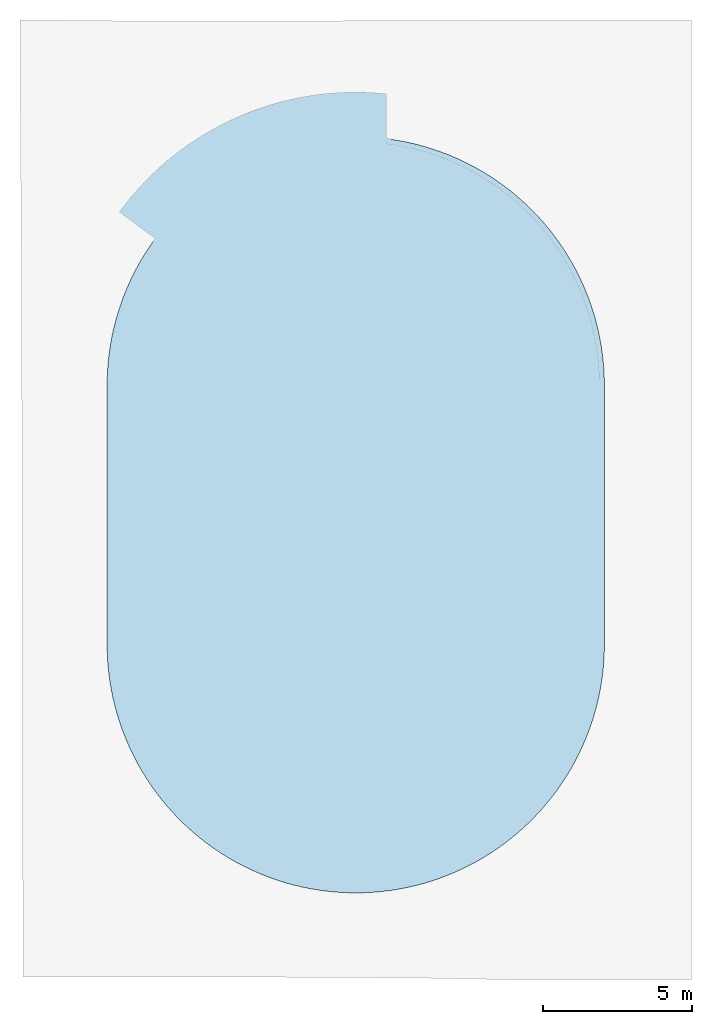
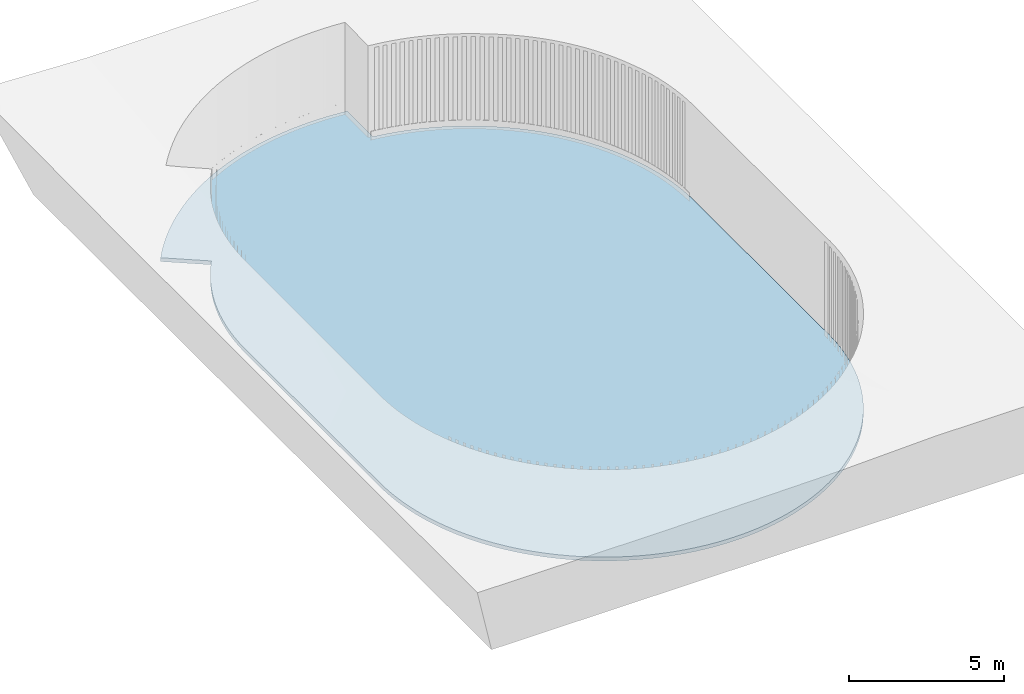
# One storey, incomplete: 1 slab.
"""IFC4 building model written with IfcOpenShell, lengths in millimetres."""

import ifcopenshell
import ifcopenshell.guid

model = None  # the IFC model being written
_history = None  # IfcOwnerHistory: only IFC2X3 demands one
_inside = {}  # id of a spatial element -> (the spatial element, [elements in it])
_under = {}  # id of a project, library or spatial element -> (it, [spatial elements below it])
_declared = {}  # id of a project -> (the project, [libraries it declares])
_typed = {}  # id of a type object -> (the type object, [elements of that type])
_made_of = {}  # id of a material, layer set ... -> (it, [elements and type objects made of it])


def new_model(schema):
    """Start an empty IFC model of exactly this schema.

    Asked for "IFC4X3", IfcOpenShell would pick the latest addendum, in which some entities
    have other attributes; the version numbers below select the first issue.
    IFC2X3 requires an IfcOwnerHistory on every rooted entity: one is made here for all.
    """
    global model, _history
    if schema == "IFC4X3":
        model = ifcopenshell.file(schema_version=(4, 3, 0, 0))
    else:
        model = ifcopenshell.file(schema=schema)
    _inside.clear()
    _under.clear()
    _declared.clear()
    _typed.clear()
    _made_of.clear()
    _history = None
    if model.schema == "IFC2X3":
        org = make("IfcOrganization", Name="unknown")
        user = make(
            "IfcPersonAndOrganization",
            ThePerson=make("IfcPerson", FamilyName="unknown"),
            TheOrganization=org,
        )
        app = make(
            "IfcApplication",
            ApplicationDeveloper=org,
            Version="unknown",
            ApplicationFullName="unknown",
            ApplicationIdentifier="unknown",
        )
        _history = make(
            "IfcOwnerHistory",
            OwningUser=user,
            OwningApplication=app,
            ChangeAction="ADDED",
            CreationDate=0,
        )
    return model


def make(cls, **values):
    """One entity of the class cls with the attributes given. An attribute that is None is left unset."""
    return model.create_entity(
        cls, **{name: value for name, value in values.items() if value is not None}
    )


def entity(cls, *values):
    """Any entity or typed value of the class cls, its attributes in the order of the schema. None: left unset."""
    e = model.create_entity(cls)
    for i, value in enumerate(values):
        if value is not None:
            e[i] = value
    return e


def rooted(cls, **values):
    """An entity with a GlobalId (a new one), such as an element, a storey or a relation."""
    return make(cls, GlobalId=ifcopenshell.guid.new(), OwnerHistory=_history, **values)


def si_unit(unit_type, name, prefix=None):
    """IfcSIUnit, for example si_unit("LENGTHUNIT", "METRE", prefix="MILLI")."""
    return make("IfcSIUnit", UnitType=unit_type, Prefix=prefix, Name=name)


def converted_unit(unit_type, name, factor, base, dimensions=None, offset=None):
    """IfcConversionBasedUnit, such as the inch: factor (a typed value) times the base unit."""
    return make(
        "IfcConversionBasedUnit"
        if offset is None
        else "IfcConversionBasedUnitWithOffset",
        ConversionOffset=offset,
        Dimensions=None
        if dimensions is None
        else entity("IfcDimensionalExponents", *dimensions),
        UnitType=unit_type,
        Name=name,
        ConversionFactor=make(
            "IfcMeasureWithUnit", ValueComponent=factor, UnitComponent=base
        ),
    )


def derived_unit(unit_type, elements):
    """IfcDerivedUnit: a product of units, each with its exponent."""
    return make(
        "IfcDerivedUnit",
        Elements=[
            make("IfcDerivedUnitElement", Unit=unit, Exponent=power)
            for unit, power in elements
        ],
        UnitType=unit_type,
    )


def assignment(units):
    """IfcUnitAssignment: the units of a project."""
    return None if units is None else make("IfcUnitAssignment", Units=units)


def point(xyz):
    """IfcCartesianPoint."""
    return None if xyz is None else make("IfcCartesianPoint", Coordinates=xyz)


def direction(xyz):
    """IfcDirection."""
    return None if xyz is None else make("IfcDirection", DirectionRatios=xyz)


def frame(location, z_axis=None, x_axis=None):
    """IfcAxis2Placement3D, a coordinate frame: its origin and axes. An axis left out is left unset."""
    return make(
        "IfcAxis2Placement3D",
        Location=point(location),
        Axis=direction(z_axis),
        RefDirection=direction(x_axis),
    )


def origin_with_axes():
    """The frame at (0, 0, 0) with the z axis (0, 0, 1) and the x axis (1, 0, 0) written out."""
    return frame((0.0, 0.0, 0.0), z_axis=(0.0, 0.0, 1.0), x_axis=(1.0, 0.0, 0.0))


def place(relative_to, where):
    """IfcLocalPlacement: puts the frame where relative to a parent placement (None: the world)."""
    return make(
        "IfcLocalPlacement", PlacementRelTo=relative_to, RelativePlacement=where
    )


def context(
    kind, dimensions, precision=None, world=None, true_north=None, identifier=None
):
    """IfcGeometricRepresentationContext, for example the 3D "Model" context."""
    return make(
        "IfcGeometricRepresentationContext",
        ContextIdentifier=identifier,
        ContextType=kind,
        CoordinateSpaceDimension=dimensions,
        Precision=precision,
        WorldCoordinateSystem=world,
        TrueNorth=true_north,
    )


def subcontext(parent, identifier, kind, view, scale=None):
    """IfcGeometricRepresentationSubContext, for example "Body" below "Model"."""
    return make(
        "IfcGeometricRepresentationSubContext",
        ContextIdentifier=identifier,
        ContextType=kind,
        ParentContext=parent,
        TargetScale=scale,
        TargetView=view,
    )


def project(units=None, contexts=None):
    """IfcProject with its units and contexts."""
    return rooted(
        "IfcProject",
        Name="project",
        RepresentationContexts=contexts,
        UnitsInContext=assignment(units),
    )


def spatial(cls, under=None, at=None, **own):
    """A site, building, storey or space (cls), placed at a placement, below another one or the project."""
    s = rooted(cls, ObjectPlacement=at, **own)
    if under is not None:
        _under.setdefault(under.id(), (under, []))[1].append(s)
    return s


def point_list(points):
    """IfcCartesianPointList2D or 3D."""
    cls = (
        "IfcCartesianPointList2D" if len(points[0]) == 2 else "IfcCartesianPointList3D"
    )
    return make(cls, CoordList=points)


def line(*indices):
    """IfcLineIndex: a straight run through numbered points of an indexed curve."""
    return model.create_entity("IfcLineIndex", indices)


def arc(*indices):
    """IfcArcIndex: an arc through three numbered points of an indexed curve."""
    return model.create_entity("IfcArcIndex", indices)


def indexed_curve(points, segments=None, self_intersect=None):
    """IfcIndexedPolyCurve: lines and arcs through numbered points (the first is 1)."""
    return make(
        "IfcIndexedPolyCurve",
        Points=point_list(points),
        Segments=segments,
        SelfIntersect=self_intersect,
    )


def outline(outer, holes=None, kind="AREA"):
    """IfcArbitraryClosedProfileDef: a profile drawn as a closed curve; with holes, ...WithVoids."""
    if holes is None:
        return make("IfcArbitraryClosedProfileDef", ProfileType=kind, OuterCurve=outer)
    return make(
        "IfcArbitraryProfileDefWithVoids",
        ProfileType=kind,
        OuterCurve=outer,
        InnerCurves=holes,
    )


def extrude(swept, where, along, depth):
    """IfcExtrudedAreaSolid: the profile swept, set in the frame where, extruded along a direction by depth."""
    return make(
        "IfcExtrudedAreaSolid",
        SweptArea=swept,
        Position=where,
        ExtrudedDirection=direction(along),
        Depth=depth,
    )


def shape(context_of_items, identifier, shape_type, items):
    """IfcShapeRepresentation: the items that make up one representation, for example the "Body"."""
    return make(
        "IfcShapeRepresentation",
        ContextOfItems=context_of_items,
        RepresentationIdentifier=identifier,
        RepresentationType=shape_type,
        Items=items,
    )


def material(Name=None, Category=None):
    """IfcMaterial."""
    return make("IfcMaterial", Name=Name, Category=Category)


def layer(
    of_material, thickness, ventilated=None, Name=None, Category=None, Priority=None
):
    """IfcMaterialLayer: one layer of a wall or slab, of a material (None: an air gap)."""
    return make(
        "IfcMaterialLayer",
        Material=of_material,
        LayerThickness=thickness,
        IsVentilated=ventilated,
        Name=Name,
        Category=Category,
        Priority=Priority,
    )


def layer_set(layers, Name=None):
    """IfcMaterialLayerSet."""
    return make("IfcMaterialLayerSet", MaterialLayers=layers, LayerSetName=Name)


def layer_usage(for_layer_set, set_direction, sense, offset, extent=None):
    """IfcMaterialLayerSetUsage: how a layer set lies in its element."""
    return make(
        "IfcMaterialLayerSetUsage",
        ForLayerSet=for_layer_set,
        LayerSetDirection=set_direction,
        DirectionSense=sense,
        OffsetFromReferenceLine=offset,
        ReferenceExtent=extent,
    )


def made_of(thing, what):
    """Note that an element or type object is made of a material, layer set ...; save() writes the relation."""
    if what is not None:
        _made_of.setdefault(what.id(), (what, []))[1].append(thing)
    return thing


def type_object(cls, material=None, **own):
    """A type object (cls), such as IfcWallType, which elements share."""
    return made_of(rooted(cls, **own), material)


def element(
    cls,
    number,
    at=None,
    inside=None,
    cuts=None,
    type_object=None,
    material=None,
    context=None,
    identifier="Body",
    shape_type=None,
    held_by="IfcProductDefinitionShape",
    body=None,
    shapes=None,
    **own,
):
    """One element of the class cls, such as IfcWall. Its Tag is "e" and its number.

    at: its placement. inside: the storey or other place that contains it. cuts: it is an
    opening in that element (IfcRelVoidsElement). A single representation is given by context,
    identifier, shape_type and body (its items); several are given by shapes. held_by: the class
    of the entity that holds the representations. save() writes the other relations.
    """
    e = rooted(cls, Tag="e%d" % number, ObjectPlacement=at, **own)
    if body is not None:
        shapes = [shape(context, identifier, shape_type, body)]
    if shapes is not None:
        e.Representation = make(held_by, Representations=shapes)
    if inside is not None:
        _inside.setdefault(inside.id(), (inside, []))[1].append(e)
    if cuts is not None:
        rooted(
            "IfcRelVoidsElement", RelatingBuildingElement=cuts, RelatedOpeningElement=e
        )
    if type_object is not None:
        _typed.setdefault(type_object.id(), (type_object, []))[1].append(e)
    return made_of(e, material)


def aggregate(whole, parts):
    """IfcRelAggregates: a whole, such as a stair, and the parts it consists of."""
    return rooted("IfcRelAggregates", RelatingObject=whole, RelatedObjects=parts)


def save(model, path):
    """Write the relations noted so far, then the file.

    IfcRelAggregates (storeys below a building ...), IfcRelContainedInSpatialStructure (elements
    in a storey), IfcRelDefinesByType, IfcRelAssociatesMaterial and IfcRelDeclares: one each for
    every whole, place, type object, material and project.
    """
    for whole, parts in _under.values():
        aggregate(whole, parts)
    for where, things in _inside.values():
        rooted(
            "IfcRelContainedInSpatialStructure",
            RelatedElements=things,
            RelatingStructure=where,
        )
    for kind, things in _typed.values():
        rooted("IfcRelDefinesByType", RelatedObjects=things, RelatingType=kind)
    for what, things in _made_of.values():
        rooted("IfcRelAssociatesMaterial", RelatedObjects=things, RelatingMaterial=what)
    for by, libraries in _declared.values():
        rooted("IfcRelDeclares", RelatingContext=by, RelatedDefinitions=libraries)
    model.write(path)


model = new_model("IFC4")

# Units and contexts
model_context = context("Model", 3, precision=0.01, world=origin_with_axes(), true_north=direction((0.0, 1.0)))
body_context = subcontext(model_context, "Body", "Model", "MODEL_VIEW")
ifc_project = project(units=[si_unit("LENGTHUNIT", "METRE", prefix="MILLI"), si_unit("AREAUNIT", "SQUARE_METRE"), si_unit("VOLUMEUNIT", "CUBIC_METRE"), converted_unit("PLANEANGLEUNIT", "DEGREE", entity("IfcPlaneAngleMeasure", 0.0174532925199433), si_unit("PLANEANGLEUNIT", "RADIAN"), dimensions=[0, 0, 0, 0, 0, 0, 0]), converted_unit("TIMEUNIT", "Year", entity("IfcTimeMeasure", 31557600.0), si_unit("TIMEUNIT", "SECOND"), dimensions=[0, 0, 1, 0, 0, 0, 0]), si_unit("MASSUNIT", "GRAM", prefix="KILO"), si_unit("THERMODYNAMICTEMPERATUREUNIT", "DEGREE_CELSIUS"), si_unit("LUMINOUSINTENSITYUNIT", "LUMEN"), si_unit("ENERGYUNIT", "JOULE", prefix="MEGA"), derived_unit("THERMALCONDUCTANCEUNIT", [(si_unit("POWERUNIT", "WATT"), 1), (si_unit("LENGTHUNIT", "METRE"), -1), (si_unit("THERMODYNAMICTEMPERATUREUNIT", "KELVIN"), -1)]), derived_unit("SPECIFICHEATCAPACITYUNIT", [(si_unit("ENERGYUNIT", "JOULE"), 1), (si_unit("MASSUNIT", "GRAM", prefix="KILO"), -1), (si_unit("THERMODYNAMICTEMPERATUREUNIT", "KELVIN"), -1)]), derived_unit("MASSDENSITYUNIT", [(si_unit("MASSUNIT", "GRAM", prefix="KILO"), 1), (si_unit("VOLUMEUNIT", "CUBIC_METRE"), -1)])], contexts=[model_context])

# Site, building, storey
site_placement = place(None, origin_with_axes())
site = spatial("IfcSite", under=ifc_project, at=site_placement, Name="Exteriér", CompositionType="ELEMENT")
building_placement = place(site_placement, origin_with_axes())
building = spatial("IfcBuilding", under=site, at=building_placement, Name="Univerzitní lezecké centrum", CompositionType="ELEMENT")
storey_placement = place(building_placement, frame((0.0, 0.0, -4070.0), z_axis=(0.0, 0.0, 1.0), x_axis=(1.0, 0.0, 0.0)))
storey = spatial("IfcBuildingStorey", under=building, at=storey_placement, Name="ZÁKLADY", CompositionType="ELEMENT", Elevation=-4070.0)

# Slab
ifc_material = material(Name="Zátěžové kamenivo - frakce 4/16")
ifc_layer = layer(ifc_material, 150.0, ventilated="UNKNOWN", Name="Zátěžové kamenivo - frakce 4/16")
ifc_layer_set = layer_set([ifc_layer], Name="Zátěžové kamenivo - frakce 4/16 150")
ifc_layer_usage = layer_usage(ifc_layer_set, "AXIS3", "NEGATIVE", 150.0)
slab_type = type_object("IfcSlabType", Name="Zátěžové kamenivo - frakce 4/16 150", PredefinedType="FLOOR")
slab_placement = place(storey_placement, frame((-5910.148351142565, -299.9999999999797, 150.0000000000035), z_axis=(0.0, 0.0, 1.0), x_axis=(1.0, 0.0, 0.0)))
element("IfcSlab", 1, at=slab_placement, inside=storey, type_object=slab_type, material=ifc_layer_usage, PredefinedType="FLOOR", context=body_context, shape_type="SweptSolid", body=[
    extrude(outline(indexed_curve([(0.0, 0.0), (8359.999999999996, -8359.999999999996), (16719.99999999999, 0.0), (16719.99999999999, 4699.999999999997), (16719.99999999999, 8700.000000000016), (14674.15750280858, 14179.14364018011), (9537.93898810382, 16976.59711115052), (9538.29268292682, 16976.74967808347), (9538.29268292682, 18635.39531481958), (4302.01861764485, 17851.01059413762), (202.2108115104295, 14500.57757293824), (1531.519408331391, 13523.01283527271), (392.0737407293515, 11230.16820129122), (0.0, 8700.00000000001), (0.0, 4699.999999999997)], segments=[arc(1, 2, 3), line(3, 4, 5), arc(5, 6, 7), line(7, 8, 9), arc(9, 10, 11), line(11, 12), arc(12, 13, 14), line(14, 15, 1)])), frame((0.0, 0.0, -150.0), z_axis=(0.0, 0.0, 1.0), x_axis=(1.0, 0.0, 0.0)), (0.0, 0.0, 1.0), 150.0),
])

save(model, "model.ifc")
